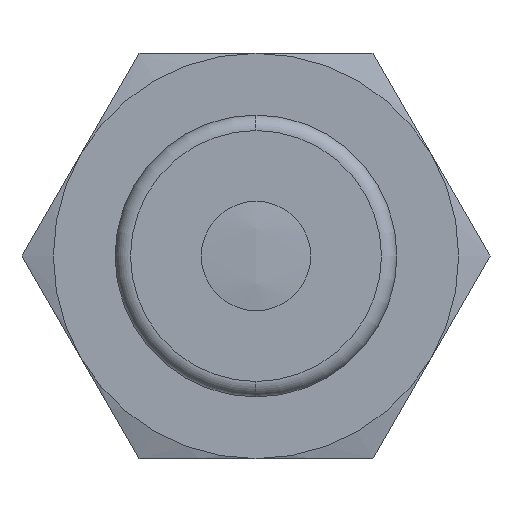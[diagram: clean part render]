
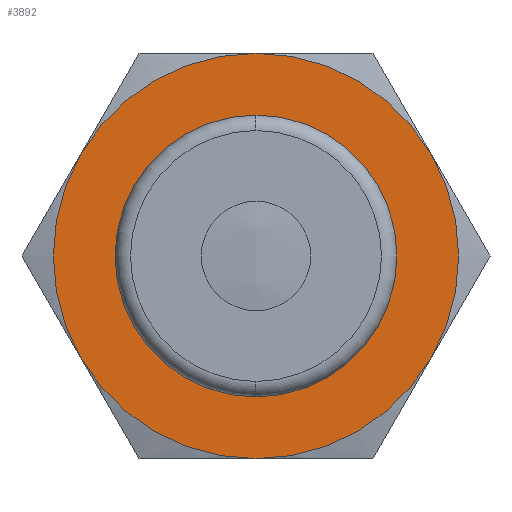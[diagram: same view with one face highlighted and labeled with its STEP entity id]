
A CAD part, left-side view. The second image highlights one B-rep face of the part: STEP entity #3892.
In plain terms, the highlighted planar face has unit normal (-1, 0, 0).
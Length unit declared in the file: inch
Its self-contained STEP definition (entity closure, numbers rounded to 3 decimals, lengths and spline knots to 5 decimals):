
#144=CARTESIAN_POINT('',(-0.63,0.565,0.));
#145=VERTEX_POINT('',#144);
#170=CARTESIAN_POINT('',(-0.63,-0.565,0.));
#171=VERTEX_POINT('',#170);
#178=CARTESIAN_POINT('',(-0.63,0.0,0.));
#179=DIRECTION('',(1.0,0.0,0.0));
#180=DIRECTION('',(0.0,1.0,0.0));
#181=AXIS2_PLACEMENT_3D('',#178,#179,#180);
#182=CIRCLE('',#181,0.565);
#183=EDGE_CURVE('',#145,#171,#182,.T.);
#3256=CARTESIAN_POINT('',(-0.63,0.0,0.));
#3257=DIRECTION('',(1.0,0.0,0.0));
#3258=DIRECTION('',(0.0,1.0,0.0));
#3259=AXIS2_PLACEMENT_3D('',#3256,#3257,#3258);
#3260=CIRCLE('',#3259,0.565);
#3261=EDGE_CURVE('',#171,#145,#3260,.T.);
#3297=CARTESIAN_POINT('',(-0.63,0.70365,0.40625));
#3298=VERTEX_POINT('',#3297);
#3379=CARTESIAN_POINT('',(-0.63,0.70365,-0.40625));
#3380=VERTEX_POINT('',#3379);
#3443=CARTESIAN_POINT('',(-0.63,0.0,0.8125));
#3444=VERTEX_POINT('',#3443);
#3538=CARTESIAN_POINT('',(-0.63,0.0,-0.8125));
#3539=VERTEX_POINT('',#3538);
#3611=CARTESIAN_POINT('',(-0.63,-0.70365,-0.40625));
#3612=VERTEX_POINT('',#3611);
#3675=CARTESIAN_POINT('',(-0.63,-0.70365,0.40625));
#3676=VERTEX_POINT('',#3675);
#3713=CARTESIAN_POINT('',(-0.63,0.0,0.));
#3714=DIRECTION('',(-1.0,0.0,0.0));
#3715=DIRECTION('',(0.0,0.0,1.0));
#3716=AXIS2_PLACEMENT_3D('',#3713,#3714,#3715);
#3717=CIRCLE('',#3716,0.8125);
#3718=EDGE_CURVE('',#3380,#3539,#3717,.T.);
#3730=CARTESIAN_POINT('',(-0.63,0.0,0.));
#3731=DIRECTION('',(-1.0,0.0,0.0));
#3732=DIRECTION('',(0.0,0.0,1.0));
#3733=AXIS2_PLACEMENT_3D('',#3730,#3731,#3732);
#3734=CIRCLE('',#3733,0.8125);
#3735=EDGE_CURVE('',#3539,#3612,#3734,.T.);
#3747=CARTESIAN_POINT('',(-0.63,0.0,0.));
#3748=DIRECTION('',(-1.0,0.0,0.0));
#3749=DIRECTION('',(0.0,0.0,1.0));
#3750=AXIS2_PLACEMENT_3D('',#3747,#3748,#3749);
#3751=CIRCLE('',#3750,0.8125);
#3752=EDGE_CURVE('',#3612,#3676,#3751,.T.);
#3765=CARTESIAN_POINT('',(-0.63,0.0,0.));
#3766=DIRECTION('',(-1.0,0.0,0.0));
#3767=DIRECTION('',(0.0,0.0,1.0));
#3768=AXIS2_PLACEMENT_3D('',#3765,#3766,#3767);
#3769=CIRCLE('',#3768,0.8125);
#3770=EDGE_CURVE('',#3676,#3444,#3769,.T.);
#3782=CARTESIAN_POINT('',(-0.63,0.0,0.));
#3783=DIRECTION('',(-1.0,0.0,0.0));
#3784=DIRECTION('',(0.0,0.0,1.0));
#3785=AXIS2_PLACEMENT_3D('',#3782,#3783,#3784);
#3786=CIRCLE('',#3785,0.8125);
#3787=EDGE_CURVE('',#3444,#3298,#3786,.T.);
#3799=CARTESIAN_POINT('',(-0.63,0.0,0.));
#3800=DIRECTION('',(-1.0,0.0,0.0));
#3801=DIRECTION('',(0.0,0.0,1.0));
#3802=AXIS2_PLACEMENT_3D('',#3799,#3800,#3801);
#3803=CIRCLE('',#3802,0.8125);
#3804=EDGE_CURVE('',#3298,#3380,#3803,.T.);
#3875=CARTESIAN_POINT('',(-0.63,0.,0.));
#3876=DIRECTION('',(-1.0,0.0,0.0));
#3877=DIRECTION('',(0.0,0.0,1.0));
#3878=AXIS2_PLACEMENT_3D('',#3875,#3876,#3877);
#3879=PLANE('',#3878);
#3880=ORIENTED_EDGE('',*,*,#3718,.T.);
#3881=ORIENTED_EDGE('',*,*,#3735,.T.);
#3882=ORIENTED_EDGE('',*,*,#3752,.T.);
#3883=ORIENTED_EDGE('',*,*,#3770,.T.);
#3884=ORIENTED_EDGE('',*,*,#3787,.T.);
#3885=ORIENTED_EDGE('',*,*,#3804,.T.);
#3886=EDGE_LOOP('',(#3880,#3881,#3882,#3883,#3884,#3885));
#3887=FACE_OUTER_BOUND('',#3886,.T.);
#3888=ORIENTED_EDGE('',*,*,#183,.T.);
#3889=ORIENTED_EDGE('',*,*,#3261,.T.);
#3890=EDGE_LOOP('',(#3888,#3889));
#3891=FACE_BOUND('',#3890,.T.);
#3892=ADVANCED_FACE('',(#3887,#3891),#3879,.T.);
